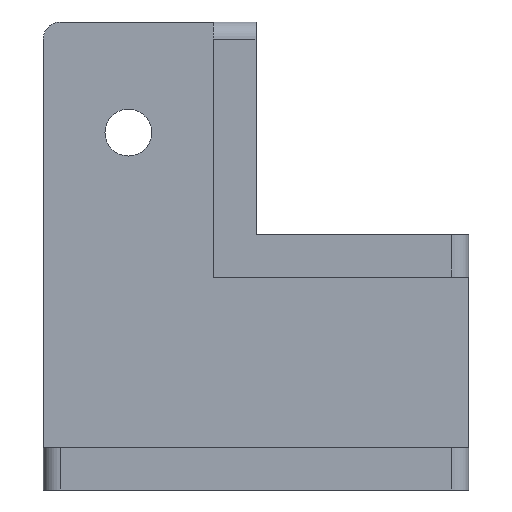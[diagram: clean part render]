
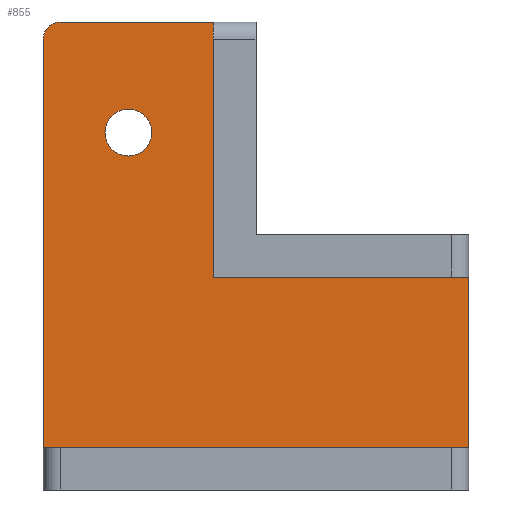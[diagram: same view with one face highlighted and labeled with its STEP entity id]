
A CAD part, left-side view. The second image highlights one B-rep face of the part: STEP entity #855.
In plain terms, the highlighted planar face has unit normal (-1, 0, 0).
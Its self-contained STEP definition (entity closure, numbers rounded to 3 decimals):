
#13 = CARTESIAN_POINT ( 'NONE',  ( 0., 30., 15. ) ) ;
#44 = VERTEX_POINT ( 'NONE', #1613 ) ;
#58 = ORIENTED_EDGE ( 'NONE', *, *, #567, .F. ) ;
#77 = ORIENTED_EDGE ( 'NONE', *, *, #1017, .T. ) ;
#97 = CARTESIAN_POINT ( 'NONE',  ( 0., 0., 10.025 ) ) ;
#101 = AXIS2_PLACEMENT_3D ( 'NONE', #350, #857, #334 ) ;
#129 = ORIENTED_EDGE ( 'NONE', *, *, #1035, .T. ) ;
#131 = VECTOR ( 'NONE', #580, 1000. ) ;
#156 = ORIENTED_EDGE ( 'NONE', *, *, #1389, .T. ) ;
#181 = VERTEX_POINT ( 'NONE', #193 ) ;
#193 = CARTESIAN_POINT ( 'NONE',  ( 0., 30., 40. ) ) ;
#198 = EDGE_LOOP ( 'NONE', ( #611, #156, #614, #697, #1151, #129, #58 ) ) ;
#223 = DIRECTION ( 'NONE',  ( 0., 0., -1. ) ) ;
#247 = DIRECTION ( 'NONE',  ( 1., 0., 0. ) ) ;
#257 = CARTESIAN_POINT ( 'NONE',  ( 0., 50., 38. ) ) ;
#330 = VECTOR ( 'NONE', #617, 1000. ) ;
#334 = DIRECTION ( 'NONE',  ( 0., 0., -1. ) ) ;
#345 = CARTESIAN_POINT ( 'NONE',  ( 0., 40., 27. ) ) ;
#350 = CARTESIAN_POINT ( 'NONE',  ( 0., 40., 27. ) ) ;
#367 = LINE ( 'NONE', #1009, #330 ) ;
#389 = LINE ( 'NONE', #750, #949 ) ;
#449 = FACE_BOUND ( 'NONE', #1653, .T. ) ;
#458 = CARTESIAN_POINT ( 'NONE',  ( 0., 0., 10.025 ) ) ;
#465 = CIRCLE ( 'NONE', #1595, 2.75 ) ;
#472 = FACE_OUTER_BOUND ( 'NONE', #198, .T. ) ;
#507 = EDGE_CURVE ( 'NONE', #44, #1030, #367, .T. ) ;
#550 = DIRECTION ( 'NONE',  ( 1., 0., 0. ) ) ;
#567 = EDGE_CURVE ( 'NONE', #181, #1627, #1499, .T. ) ;
#580 = DIRECTION ( 'NONE',  ( 0., 0., -1. ) ) ;
#584 = AXIS2_PLACEMENT_3D ( 'NONE', #938, #1172, #1445 ) ;
#611 = ORIENTED_EDGE ( 'NONE', *, *, #730, .F. ) ;
#614 = ORIENTED_EDGE ( 'NONE', *, *, #1486, .T. ) ;
#617 = DIRECTION ( 'NONE',  ( 0., 1., 0. ) ) ;
#654 = CIRCLE ( 'NONE', #584, 2. ) ;
#664 = VERTEX_POINT ( 'NONE', #1314 ) ;
#697 = ORIENTED_EDGE ( 'NONE', *, *, #507, .F. ) ;
#706 = CARTESIAN_POINT ( 'NONE',  ( 0., 50., 10.025 ) ) ;
#711 = CIRCLE ( 'NONE', #101, 2.75 ) ;
#730 = EDGE_CURVE ( 'NONE', #1611, #181, #389, .T. ) ;
#750 = CARTESIAN_POINT ( 'NONE',  ( 0., 30., 40. ) ) ;
#855 = ADVANCED_FACE ( 'NONE', ( #449, #472 ), #932, .F. ) ;
#857 = DIRECTION ( 'NONE',  ( 1., 0., 0. ) ) ;
#932 = PLANE ( 'NONE',  #1371 ) ;
#938 = CARTESIAN_POINT ( 'NONE',  ( 0., 48., 38. ) ) ;
#948 = DIRECTION ( 'NONE',  ( 0., 0., -1. ) ) ;
#949 = VECTOR ( 'NONE', #995, 1000. ) ;
#967 = DIRECTION ( 'NONE',  ( 0., 1., 0. ) ) ;
#971 = VECTOR ( 'NONE', #1561, 1000. ) ;
#983 = VECTOR ( 'NONE', #967, 1000. ) ;
#995 = DIRECTION ( 'NONE',  ( 0., -1., 0. ) ) ;
#1009 = CARTESIAN_POINT ( 'NONE',  ( 0., 0., -10.025 ) ) ;
#1017 = EDGE_CURVE ( 'NONE', #1179, #664, #465, .T. ) ;
#1023 = CARTESIAN_POINT ( 'NONE',  ( 0., 0., 10.025 ) ) ;
#1027 = LINE ( 'NONE', #97, #983 ) ;
#1030 = VERTEX_POINT ( 'NONE', #1279 ) ;
#1035 = EDGE_CURVE ( 'NONE', #1363, #1627, #1027, .T. ) ;
#1049 = CARTESIAN_POINT ( 'NONE',  ( 0., 30., 10.025 ) ) ;
#1064 = CARTESIAN_POINT ( 'NONE',  ( 0., 0., 10.025 ) ) ;
#1066 = LINE ( 'NONE', #458, #1092 ) ;
#1092 = VECTOR ( 'NONE', #223, 1000. ) ;
#1096 = EDGE_CURVE ( 'NONE', #1363, #44, #1066, .T. ) ;
#1097 = VERTEX_POINT ( 'NONE', #257 ) ;
#1127 = CARTESIAN_POINT ( 'NONE',  ( 0., 48., 40. ) ) ;
#1151 = ORIENTED_EDGE ( 'NONE', *, *, #1096, .F. ) ;
#1172 = DIRECTION ( 'NONE',  ( -1., 0., 0. ) ) ;
#1179 = VERTEX_POINT ( 'NONE', #1391 ) ;
#1245 = ORIENTED_EDGE ( 'NONE', *, *, #1465, .T. ) ;
#1248 = LINE ( 'NONE', #706, #131 ) ;
#1279 = CARTESIAN_POINT ( 'NONE',  ( 0., 50., -10.025 ) ) ;
#1314 = CARTESIAN_POINT ( 'NONE',  ( 0., 40., 24.25 ) ) ;
#1363 = VERTEX_POINT ( 'NONE', #1023 ) ;
#1371 = AXIS2_PLACEMENT_3D ( 'NONE', #1064, #550, #948 ) ;
#1389 = EDGE_CURVE ( 'NONE', #1611, #1097, #654, .T. ) ;
#1391 = CARTESIAN_POINT ( 'NONE',  ( 0., 40., 29.75 ) ) ;
#1445 = DIRECTION ( 'NONE',  ( 0., 0., -1. ) ) ;
#1465 = EDGE_CURVE ( 'NONE', #664, #1179, #711, .T. ) ;
#1477 = DIRECTION ( 'NONE',  ( 0., 0., -1. ) ) ;
#1486 = EDGE_CURVE ( 'NONE', #1097, #1030, #1248, .T. ) ;
#1499 = LINE ( 'NONE', #13, #971 ) ;
#1561 = DIRECTION ( 'NONE',  ( 0., 0., -1. ) ) ;
#1595 = AXIS2_PLACEMENT_3D ( 'NONE', #345, #247, #1477 ) ;
#1611 = VERTEX_POINT ( 'NONE', #1127 ) ;
#1613 = CARTESIAN_POINT ( 'NONE',  ( 0., 0., -10.025 ) ) ;
#1627 = VERTEX_POINT ( 'NONE', #1049 ) ;
#1653 = EDGE_LOOP ( 'NONE', ( #1245, #77 ) ) ;
